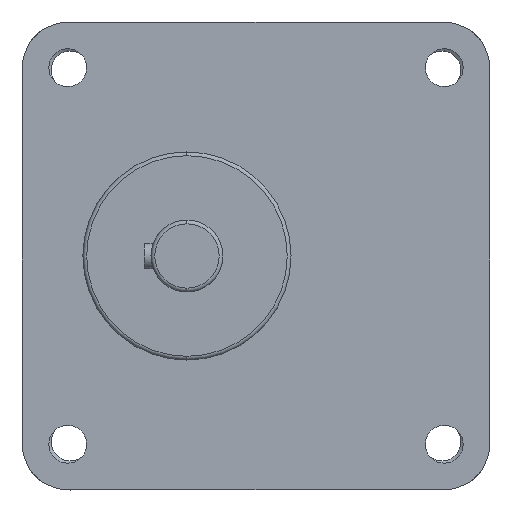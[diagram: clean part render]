
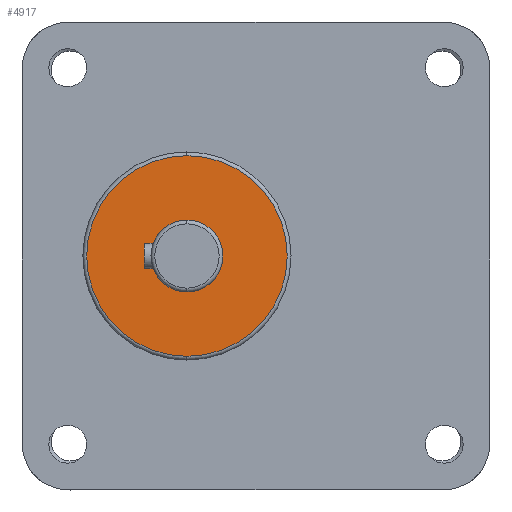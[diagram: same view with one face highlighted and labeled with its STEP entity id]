
A CAD part, left-side view. The second image highlights one B-rep face of the part: STEP entity #4917.
In plain terms, the highlighted planar face has unit normal (-1, 0, 0) as drawn and (0, 0, 1) by its records, which use the part's own axes.
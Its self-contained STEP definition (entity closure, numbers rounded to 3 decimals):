
#210 = CARTESIAN_POINT ( 'NONE',  ( 26.5, 18.25, 98.5 ) ) ;
#571 = DIRECTION ( 'NONE',  ( 1., 0., 0. ) ) ;
#635 = AXIS2_PLACEMENT_3D ( 'NONE', #4822, #642, #5548 ) ;
#642 = DIRECTION ( 'NONE',  ( 0., 0., 1. ) ) ;
#646 = CARTESIAN_POINT ( 'NONE',  ( -9.5, 18.25, 98.5 ) ) ;
#810 = AXIS2_PLACEMENT_3D ( 'NONE', #8803, #7428, #3289 ) ;
#909 = VERTEX_POINT ( 'NONE', #4378 ) ;
#1344 = CARTESIAN_POINT ( 'NONE',  ( 0., 18.25, 98.5 ) ) ;
#1505 = CIRCLE ( 'NONE', #5779, 9.5 ) ;
#1789 = CARTESIAN_POINT ( 'NONE',  ( 9.5, 18.25, 98.5 ) ) ;
#2093 = DIRECTION ( 'NONE',  ( 1., 0., 0. ) ) ;
#2466 = AXIS2_PLACEMENT_3D ( 'NONE', #7467, #3322, #8176 ) ;
#2520 = EDGE_CURVE ( 'NONE', #6857, #7098, #1505, .T. ) ;
#3289 = DIRECTION ( 'NONE',  ( 1., 0., 0. ) ) ;
#3309 = VERTEX_POINT ( 'NONE', #210 ) ;
#3322 = DIRECTION ( 'NONE',  ( 0., 0., 1. ) ) ;
#3721 = AXIS2_PLACEMENT_3D ( 'NONE', #8942, #4756, #571 ) ;
#4378 = CARTESIAN_POINT ( 'NONE',  ( -26.5, 18.25, 98.5 ) ) ;
#4756 = DIRECTION ( 'NONE',  ( 0., 0., 1. ) ) ;
#4822 = CARTESIAN_POINT ( 'NONE',  ( 0., 18.25, 98.5 ) ) ;
#4917 = ADVANCED_FACE ( 'NONE', ( #5761, #7612 ), #5332, .T. ) ;
#4978 = CIRCLE ( 'NONE', #635, 26.5 ) ;
#5008 = EDGE_LOOP ( 'NONE', ( #6816, #6684 ) ) ;
#5066 = EDGE_CURVE ( 'NONE', #3309, #909, #4978, .T. ) ;
#5286 = CIRCLE ( 'NONE', #2466, 9.5 ) ;
#5289 = EDGE_LOOP ( 'NONE', ( #6901, #6699 ) ) ;
#5332 = PLANE ( 'NONE',  #810 ) ;
#5548 = DIRECTION ( 'NONE',  ( 1., 0., 0. ) ) ;
#5761 = FACE_BOUND ( 'NONE', #5289, .T. ) ;
#5778 = EDGE_CURVE ( 'NONE', #909, #3309, #5947, .T. ) ;
#5779 = AXIS2_PLACEMENT_3D ( 'NONE', #1344, #6212, #2093 ) ;
#5947 = CIRCLE ( 'NONE', #3721, 26.5 ) ;
#6212 = DIRECTION ( 'NONE',  ( 0., 0., 1. ) ) ;
#6367 = EDGE_CURVE ( 'NONE', #7098, #6857, #5286, .T. ) ;
#6684 = ORIENTED_EDGE ( 'NONE', *, *, #5778, .T. ) ;
#6699 = ORIENTED_EDGE ( 'NONE', *, *, #2520, .F. ) ;
#6816 = ORIENTED_EDGE ( 'NONE', *, *, #5066, .T. ) ;
#6857 = VERTEX_POINT ( 'NONE', #1789 ) ;
#6901 = ORIENTED_EDGE ( 'NONE', *, *, #6367, .F. ) ;
#7098 = VERTEX_POINT ( 'NONE', #646 ) ;
#7428 = DIRECTION ( 'NONE',  ( 0., 0., 1. ) ) ;
#7467 = CARTESIAN_POINT ( 'NONE',  ( 0., 18.25, 98.5 ) ) ;
#7612 = FACE_OUTER_BOUND ( 'NONE', #5008, .T. ) ;
#8176 = DIRECTION ( 'NONE',  ( 1., 0., 0. ) ) ;
#8803 = CARTESIAN_POINT ( 'NONE',  ( 0., 18.25, 98.5 ) ) ;
#8942 = CARTESIAN_POINT ( 'NONE',  ( 0., 18.25, 98.5 ) ) ;
